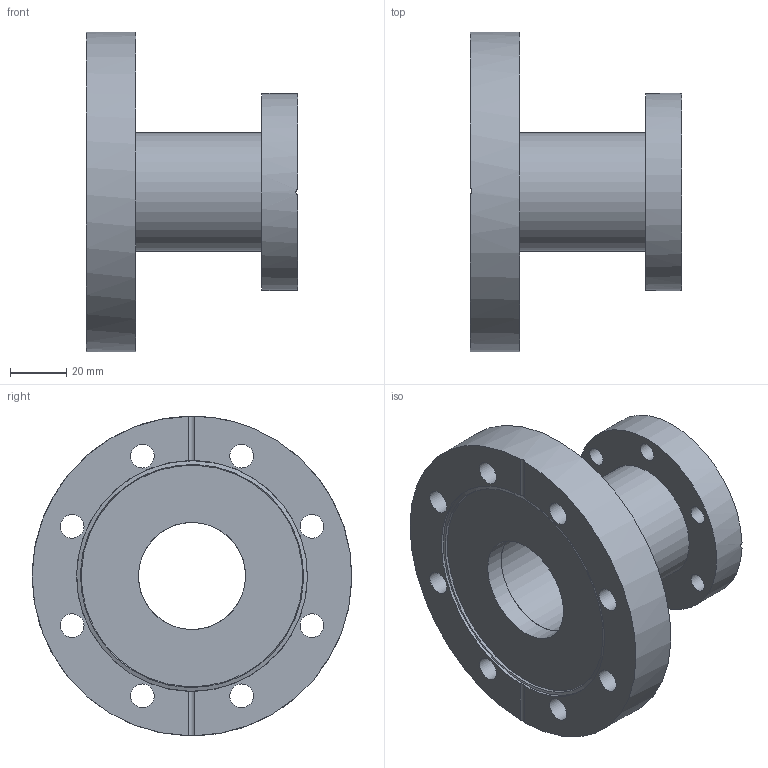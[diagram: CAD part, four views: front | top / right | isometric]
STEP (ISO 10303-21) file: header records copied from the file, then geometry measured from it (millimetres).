
FILE_DESCRIPTION( ( 'Unknown' ), '1' );
FILE_NAME( 'X:/Daten ( aktueller Bestand )/Projekte und Zeichnungen/Solid Edge/STP-Dateien/CF-Teile/7163R4.stp', 'Unknown', ( 'Unknown' ), ( 'Unknown' ), 'PSStep 14.0', 'Unknown', ' ' );
FILE_SCHEMA( ( 'AUTOMOTIVE_DESIGN { 1 0 10303 214 1 1 1 1 }' ) );
Length unit declared in the file: millimetre
Products named in the file (10): 7163R-1; 7163R-2; 7163F-3; 7163F-1; Assem1_0; Assem1
Assembly tree (9 placements, depth 4):
  Assem1
    7163F-1
      7163F-1
    7163F-3
      7163F-3
    Assem1_0
      7163R-1
        7163R-1
      7163R-2
        7163R-2
Bounding box: 75 x 113.49 x 113.5 mm (x, y, z)
Volume: 186170.2 mm3; surface area: 59495.9 mm2
Topology: 4 solids, 4 shells, 48 faces, 116 edges, 78 vertices
Faces by surface type: cylinder 30, plane 14, cone 4
Full cylindrical faces by diameter (mm): 6.6 x6, 8.4 x8, 38 x3, 42 x1, 42.3 x3, 48 x1, 48.2 x1, 70 x1, 82 x1, 113.5 x1
Entity records: 1954 total; most frequent: CARTESIAN_POINT 319, DIRECTION 254, ORIENTED_EDGE 152, AXIS2_PLACEMENT_3D 123, EDGE_LOOP 116, EDGE_CURVE 76, FACE_OUTER_BOUND 74, VERTEX_POINT 68
